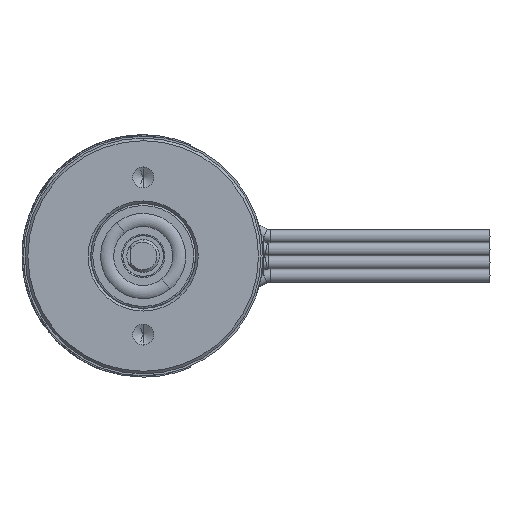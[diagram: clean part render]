
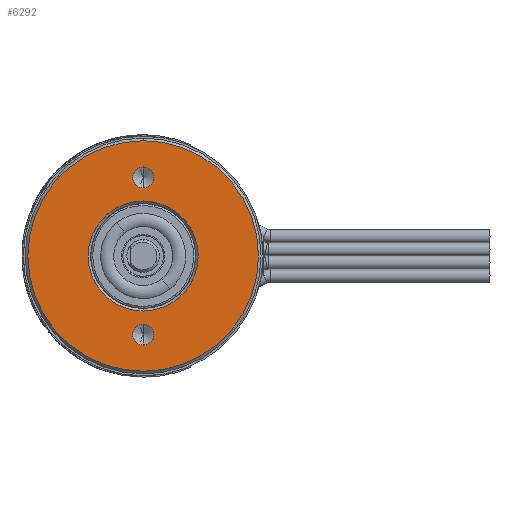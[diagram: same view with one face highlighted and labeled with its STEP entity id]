
A CAD part, front view. The second image highlights one B-rep face of the part: STEP entity #6292.
In plain terms, the highlighted planar face has unit normal (0, -1, 0).
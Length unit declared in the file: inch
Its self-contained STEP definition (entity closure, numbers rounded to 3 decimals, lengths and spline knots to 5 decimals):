
#86 = VERTEX_POINT ( 'NONE', #2310 ) ;
#117 = CIRCLE ( 'NONE', #5904, 0.34646 ) ;
#140 = AXIS2_PLACEMENT_3D ( 'NONE', #7590, #5168, #314 ) ;
#273 = ORIENTED_EDGE ( 'NONE', *, *, #5882, .F. ) ;
#314 = DIRECTION ( 'NONE',  ( 0., 0., -1. ) ) ;
#360 = AXIS2_PLACEMENT_3D ( 'NONE', #7825, #2231, #2126 ) ;
#749 = AXIS2_PLACEMENT_3D ( 'NONE', #1430, #4699, #7926 ) ;
#821 = DIRECTION ( 'NONE',  ( 0., -1., 0. ) ) ;
#1261 = FACE_BOUND ( 'NONE', #5889, .T. ) ;
#1275 = ORIENTED_EDGE ( 'NONE', *, *, #5525, .T. ) ;
#1406 = ORIENTED_EDGE ( 'NONE', *, *, #1549, .T. ) ;
#1430 = CARTESIAN_POINT ( 'NONE',  ( 0., 0., 0.23622 ) ) ;
#1538 = CARTESIAN_POINT ( 'NONE',  ( 0., 0., -0.26772 ) ) ;
#1549 = EDGE_CURVE ( 'NONE', #7899, #6287, #4611, .T. ) ;
#1659 = VERTEX_POINT ( 'NONE', #1538 ) ;
#1846 = CARTESIAN_POINT ( 'NONE',  ( 0., 0., 0.26772 ) ) ;
#2015 = CIRCLE ( 'NONE', #4358, 0.0315 ) ;
#2126 = DIRECTION ( 'NONE',  ( 0., 0., -1. ) ) ;
#2128 = DIRECTION ( 'NONE',  ( 0., -1., 0. ) ) ;
#2170 = CARTESIAN_POINT ( 'NONE',  ( 0., 0., 0.23622 ) ) ;
#2176 = ORIENTED_EDGE ( 'NONE', *, *, #5491, .T. ) ;
#2221 = VERTEX_POINT ( 'NONE', #7334 ) ;
#2231 = DIRECTION ( 'NONE',  ( 0., 1., 0. ) ) ;
#2310 = CARTESIAN_POINT ( 'NONE',  ( 0., 0., -0.34646 ) ) ;
#2354 = DIRECTION ( 'NONE',  ( 0., -1., 0. ) ) ;
#2404 = CARTESIAN_POINT ( 'NONE',  ( 0., 0., -0.23622 ) ) ;
#2420 = CARTESIAN_POINT ( 'NONE',  ( 0., 0., 0.20472 ) ) ;
#2838 = DIRECTION ( 'NONE',  ( 0., 1., 0. ) ) ;
#2888 = EDGE_CURVE ( 'NONE', #86, #4474, #117, .T. ) ;
#3068 = VERTEX_POINT ( 'NONE', #2420 ) ;
#3407 = FACE_BOUND ( 'NONE', #6080, .T. ) ;
#3449 = EDGE_CURVE ( 'NONE', #4908, #3068, #6457, .T. ) ;
#3724 = CARTESIAN_POINT ( 'NONE',  ( 0., 0., 0. ) ) ;
#3880 = CIRCLE ( 'NONE', #360, 0.16535 ) ;
#4037 = FACE_OUTER_BOUND ( 'NONE', #9454, .T. ) ;
#4358 = AXIS2_PLACEMENT_3D ( 'NONE', #2404, #9755, #8864 ) ;
#4394 = CARTESIAN_POINT ( 'NONE',  ( 0., 0., -0.16535 ) ) ;
#4474 = VERTEX_POINT ( 'NONE', #7816 ) ;
#4611 = CIRCLE ( 'NONE', #8384, 0.16535 ) ;
#4699 = DIRECTION ( 'NONE',  ( 0., -1., 0. ) ) ;
#4812 = EDGE_LOOP ( 'NONE', ( #1406, #1275 ) ) ;
#4822 = CARTESIAN_POINT ( 'NONE',  ( 0.35433, 0., 0. ) ) ;
#4908 = VERTEX_POINT ( 'NONE', #1846 ) ;
#5168 = DIRECTION ( 'NONE',  ( 0., -1., 0. ) ) ;
#5491 = EDGE_CURVE ( 'NONE', #4474, #86, #7584, .T. ) ;
#5525 = EDGE_CURVE ( 'NONE', #6287, #7899, #3880, .T. ) ;
#5882 = EDGE_CURVE ( 'NONE', #3068, #4908, #6735, .T. ) ;
#5889 = EDGE_LOOP ( 'NONE', ( #8626, #9878 ) ) ;
#5904 = AXIS2_PLACEMENT_3D ( 'NONE', #3724, #2128, #9443 ) ;
#6080 = EDGE_LOOP ( 'NONE', ( #273, #6086 ) ) ;
#6086 = ORIENTED_EDGE ( 'NONE', *, *, #3449, .F. ) ;
#6089 = CARTESIAN_POINT ( 'NONE',  ( 0., 0., 0. ) ) ;
#6287 = VERTEX_POINT ( 'NONE', #7102 ) ;
#6292 = ADVANCED_FACE ( 'NONE', ( #3407, #1261, #4037, #7634 ), #6371, .T. ) ;
#6371 = PLANE ( 'NONE',  #10329 ) ;
#6457 = CIRCLE ( 'NONE', #749, 0.0315 ) ;
#6735 = CIRCLE ( 'NONE', #9785, 0.0315 ) ;
#7102 = CARTESIAN_POINT ( 'NONE',  ( 0., 0., 0.16535 ) ) ;
#7171 = DIRECTION ( 'NONE',  ( 0., 0., -1. ) ) ;
#7197 = ORIENTED_EDGE ( 'NONE', *, *, #2888, .T. ) ;
#7217 = EDGE_CURVE ( 'NONE', #2221, #1659, #2015, .T. ) ;
#7334 = CARTESIAN_POINT ( 'NONE',  ( 0., 0., -0.20472 ) ) ;
#7584 = CIRCLE ( 'NONE', #140, 0.34646 ) ;
#7590 = CARTESIAN_POINT ( 'NONE',  ( 0., 0., 0. ) ) ;
#7634 = FACE_BOUND ( 'NONE', #4812, .T. ) ;
#7790 = DIRECTION ( 'NONE',  ( 0., 0., -1. ) ) ;
#7816 = CARTESIAN_POINT ( 'NONE',  ( 0., 0., 0.34646 ) ) ;
#7825 = CARTESIAN_POINT ( 'NONE',  ( 0., 0., 0. ) ) ;
#7899 = VERTEX_POINT ( 'NONE', #4394 ) ;
#7926 = DIRECTION ( 'NONE',  ( 0., 0., -1. ) ) ;
#8069 = DIRECTION ( 'NONE',  ( 0., 0., -1. ) ) ;
#8180 = CARTESIAN_POINT ( 'NONE',  ( 0., 0., -0.23622 ) ) ;
#8368 = AXIS2_PLACEMENT_3D ( 'NONE', #8180, #821, #9011 ) ;
#8384 = AXIS2_PLACEMENT_3D ( 'NONE', #6089, #2838, #7790 ) ;
#8626 = ORIENTED_EDGE ( 'NONE', *, *, #9806, .F. ) ;
#8864 = DIRECTION ( 'NONE',  ( 0., 0., -1. ) ) ;
#9011 = DIRECTION ( 'NONE',  ( 0., 0., -1. ) ) ;
#9443 = DIRECTION ( 'NONE',  ( 0., 0., -1. ) ) ;
#9454 = EDGE_LOOP ( 'NONE', ( #2176, #7197 ) ) ;
#9552 = DIRECTION ( 'NONE',  ( 0., -1., 0. ) ) ;
#9755 = DIRECTION ( 'NONE',  ( 0., -1., 0. ) ) ;
#9785 = AXIS2_PLACEMENT_3D ( 'NONE', #2170, #9552, #8069 ) ;
#9806 = EDGE_CURVE ( 'NONE', #1659, #2221, #10198, .T. ) ;
#9878 = ORIENTED_EDGE ( 'NONE', *, *, #7217, .F. ) ;
#10198 = CIRCLE ( 'NONE', #8368, 0.0315 ) ;
#10329 = AXIS2_PLACEMENT_3D ( 'NONE', #4822, #2354, #7171 ) ;
